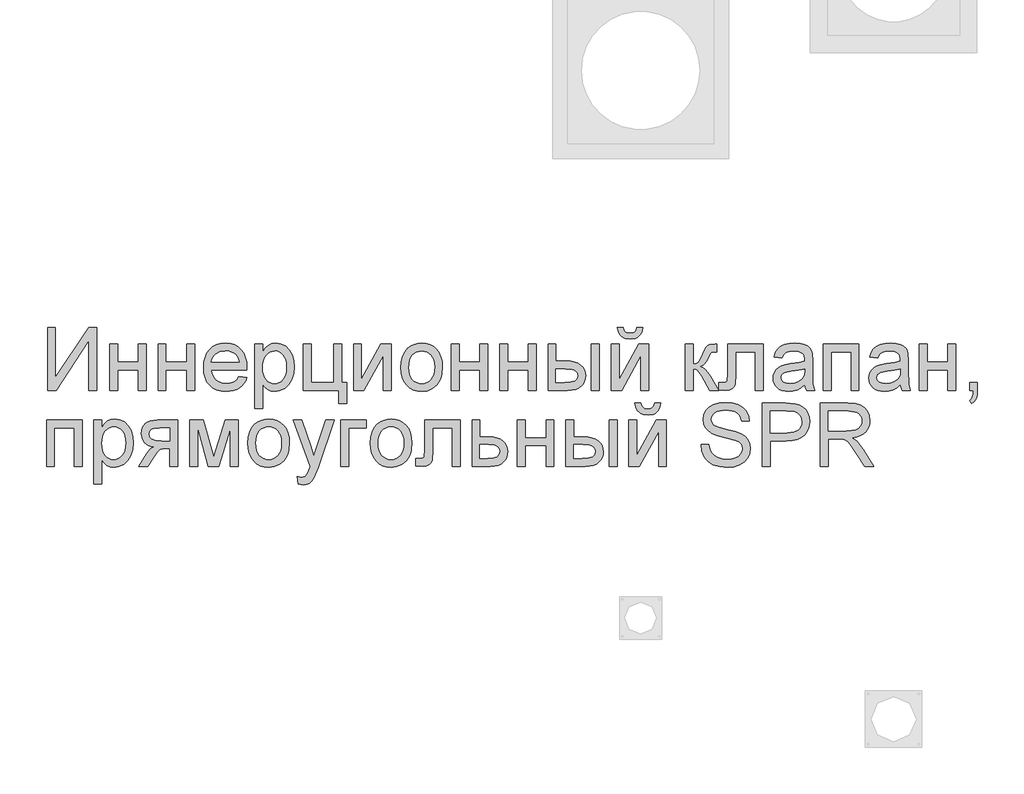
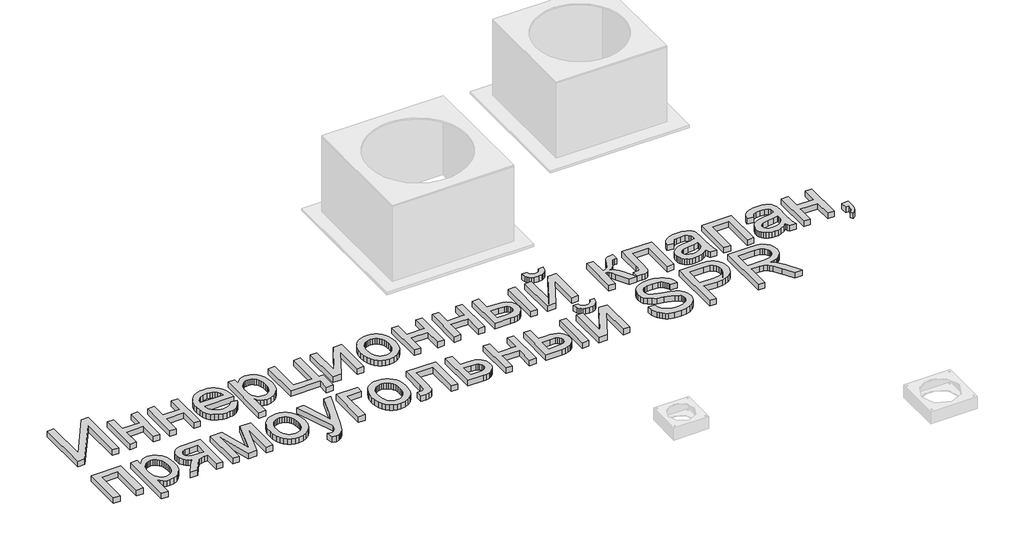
# One storey, part 26 of 31: 1 proxy.
"""IFC4 building model written with IfcOpenShell, lengths in millimetres."""

from ifc_helpers import new_model, si_unit, origin, origin_with_axes, place, context, project, spatial, polyline, outline, extrude, element, save

model = new_model("IFC4")

# Units and contexts
model_context = context("Model", 3, world=origin())
ifc_project = project(units=[si_unit("LENGTHUNIT", "METRE", prefix="MILLI")], contexts=[model_context])

# Site, building, storey
site = spatial("IfcSite", under=ifc_project)
building = spatial("IfcBuilding", under=site)
storey = spatial("IfcBuildingStorey", under=building, Name="Этаж 01", Elevation=0.0)

# Proxy
placement = place(None, origin())
element("IfcBuildingElementProxy", 1, Name="450 мм Arial", ObjectType="450 мм Arial", at=placement, inside=storey, context=model_context, shape_type="SweptSolid", body=[
    extrude(outline(polyline([(77243.6333717, -24328.5830609), (77299.8403896, -24328.5830609), (77299.8403896, -24684.7072131), (77535.2072768, -24328.5830609), (77594.9272333, -24328.5830609), (77594.9272333, -24778.2392037), (77538.7202154, -24778.2392037), (77538.7202154, -24423.1030656), (77303.9022248, -24778.2392037), (77243.6333717, -24778.2392037), (77243.6333717, -24328.5830609)])), origin_with_axes(), (0.0, 0.0, 1.0), 50.0),
    extrude(outline(polyline([(77686.2636373, -24448.0229739), (77742.4706551, -24448.0229739), (77742.4706551, -24574.488764), (77890.014077, -24574.488764), (77890.014077, -24448.0229739), (77946.2210949, -24448.0229739), (77946.2210949, -24778.2392037), (77890.014077, -24778.2392037), (77890.014077, -24630.6957819), (77742.4706551, -24630.6957819), (77742.4706551, -24778.2392037), (77686.2636373, -24778.2392037), (77686.2636373, -24448.0229739)])), origin_with_axes(), (0.0, 0.0, 1.0), 50.0),
    extrude(outline(polyline([(78030.5316216, -24448.0229739), (78086.7386395, -24448.0229739), (78086.7386395, -24574.488764), (78234.2820613, -24574.488764), (78234.2820613, -24448.0229739), (78290.4890792, -24448.0229739), (78290.4890792, -24778.2392037), (78234.2820613, -24778.2392037), (78234.2820613, -24630.6957819), (78086.7386395, -24630.6957819), (78086.7386395, -24778.2392037), (78030.5316216, -24778.2392037), (78030.5316216, -24448.0229739)])), origin_with_axes(), (0.0, 0.0, 1.0), 50.0),
    extrude(outline(polyline([(78605.9948786, -24679.8769225), (78661.1041032, -24686.9027997), (78652.6545252, -24708.9753066), (78641.2477665, -24728.426832), (78626.8838271, -24745.2573758), (78609.5627069, -24759.466938), (78589.4627974, -24770.7536256), (78566.7624899, -24778.8155452), (78541.4617846, -24783.652697), (78513.5606813, -24785.265081), (78478.6851598, -24782.482861), (78447.6107478, -24774.1362012), (78420.337445, -24760.2251015), (78396.8652517, -24740.7495619), (78377.9900678, -24716.251618), (78364.5077936, -24687.273305), (78356.4184291, -24653.814623), (78353.7219743, -24615.8755721), (78356.445874, -24576.6500446), (78364.617573, -24542.0764163), (78378.2370713, -24512.1546872), (78397.304369, -24486.8848573), (78420.7148115, -24466.808962), (78447.3637443, -24452.4690368), (78477.2511673, -24443.8650817), (78510.3770807, -24440.9970966), (78542.4360762, -24443.8582205), (78571.4281115, -24452.441592), (78597.3531869, -24466.7472111), (78620.2113021, -24486.775078), (78638.8703579, -24511.9900182), (78652.1982549, -24541.8568577), (78660.1949931, -24576.3755963), (78662.8605725, -24615.5462341), (78662.5312345, -24630.6957819), (78409.9289921, -24630.6957819), (78413.1846354, -24653.1250716), (78419.6581854, -24672.7687108), (78429.349642, -24689.6266994), (78442.2590053, -24703.6990375), (78457.6727096, -24714.7936112), (78474.8771893, -24722.7183067), (78493.8724443, -24727.473124), (78514.6584746, -24729.0580631), (78544.5733425, -24726.121466), (78569.7676992, -24717.3116746), (78590.2415445, -24702.0797923), (78605.9948786, -24679.8769225)]), holes=[polyline([(78409.9289921, -24574.488764), (78606.6535546, -24574.488764), (78599.0513359, -24544.7934548), (78584.1487916, -24523.5511541), (78568.8208524, -24512.0243243), (78551.3796611, -24503.7908744), (78531.8252176, -24498.8508045), (78510.157522, -24497.2041145), (78472.2699301, -24502.4598), (78440.9416534, -24518.2268565), (78428.4851298, -24529.626754), (78419.1641784, -24542.8037044), (78412.9787992, -24557.7577077), (78409.9289921, -24574.488764)])]), origin_with_axes(), (0.0, 0.0, 1.0), 50.0),
    extrude(outline(polyline([(78719.0675903, -24904.7049939), (78719.0675903, -24448.0229739), (78775.2746082, -24448.0229739), (78775.2746082, -24503.1321984), (78793.6077566, -24475.9480914), (78814.1364916, -24456.5308721), (78838.0683859, -24444.8805405), (78866.6110122, -24440.9970966), (78904.6221058, -24446.4311735), (78937.8577985, -24462.7334043), (78964.9184038, -24488.9157749), (78984.4042351, -24523.9902714), (78996.1780685, -24565.4045243), (79000.1026796, -24610.6061642), (78995.6703391, -24658.6757891), (78982.3733175, -24701.6681198), (78960.6370098, -24737.4012923), (78930.8868109, -24763.6934423), (78896.2377093, -24779.8721713), (78859.8046936, -24785.265081), (78833.9653834, -24781.6560854), (78810.8980013, -24770.8290988), (78791.151444, -24754.4857008), (78775.2746082, -24734.327471), (78775.2746082, -24904.7049939), (78719.0675903, -24904.7049939)]), holes=[polyline([(78775.2746082, -24615.7657928), (78776.7943658, -24642.8538429), (78781.3536387, -24666.154506), (78788.9524268, -24685.6677822), (78799.5907302, -24701.3936715), (78812.3971753, -24713.4968428), (78826.5003888, -24722.1419652), (78841.9003707, -24727.3290386), (78858.597121, -24729.0580631), (78875.5340135, -24727.2672878), (78891.2153049, -24721.8949617), (78905.6409952, -24712.941085), (78918.8110844, -24700.4056575), (78929.785587, -24684.110288), (78937.6245174, -24663.8765849), (78942.3278756, -24639.7045483), (78943.8956617, -24611.5941782), (78942.3656123, -24584.7394091), (78937.775464, -24561.4799132), (78930.1252168, -24541.8156904), (78919.4148708, -24525.7467407), (78906.5775501, -24513.2593417), (78892.5463793, -24504.339771), (78877.3213582, -24498.9880286), (78860.9024869, -24497.2041145), (78844.5350747, -24499.1012386), (78829.1350928, -24504.7926108), (78814.7025413, -24514.2782312), (78801.2374201, -24527.5580997), (78789.8786899, -24544.453825), (78781.7653112, -24564.7870156), (78776.8972839, -24588.5576715), (78775.2746082, -24615.7657928)])]), origin_with_axes(), (0.0, 0.0, 1.0), 50.0),
    extrude(outline(polyline([(79063.3355747, -24448.0229739), (79119.5425925, -24448.0229739), (79119.5425925, -24722.0321859), (79281.1377688, -24722.0321859), (79281.1377688, -24448.0229739), (79337.3447867, -24448.0229739), (79337.3447867, -24722.0321859), (79372.4741729, -24722.0321859), (79372.4741729, -24869.5756077), (79316.267155, -24869.5756077), (79316.267155, -24778.2392037), (79063.3355747, -24778.2392037), (79063.3355747, -24448.0229739)])), origin_with_axes(), (0.0, 0.0, 1.0), 50.0),
    extrude(outline(polyline([(79421.6553135, -24448.0229739), (79477.8623313, -24448.0229739), (79477.8623313, -24699.8567609), (79615.9647307, -24448.0229739), (79688.6386483, -24448.0229739), (79688.6386483, -24778.2392037), (79632.4316304, -24778.2392037), (79632.4316304, -24527.9423274), (79495.2074657, -24778.2392037), (79421.6553135, -24778.2392037), (79421.6553135, -24448.0229739)])), origin_with_axes(), (0.0, 0.0, 1.0), 50.0),
    extrude(outline(polyline([(79758.8974206, -24613.1310888), (79761.9369358, -24570.3651779), (79771.0554816, -24533.5136285), (79786.2530578, -24502.5764405), (79807.5296645, -24477.5536141), (79828.9503567, -24461.5601377), (79852.5940802, -24450.136226), (79878.4608353, -24443.281879), (79906.5506218, -24440.9970966), (79937.5598524, -24443.7793166), (79965.5981798, -24452.1259764), (79990.6656041, -24466.0370761), (80012.7621252, -24485.5126156), (80030.7968111, -24509.8939191), (80043.6787295, -24538.5223105), (80051.4078806, -24571.3977897), (80053.9842643, -24608.5203569), (80049.428422, -24665.3037162), (80043.7336192, -24688.6112406), (80035.7608952, -24708.5293281), (80013.379634, -24740.9005085), (79982.6825883, -24765.1205736), (79946.2221278, -24780.2289541), (79906.5506218, -24785.265081), (79875.0885514, -24782.4931528), (79846.7894981, -24774.1773685), (79821.6534617, -24760.3177278), (79799.6804423, -24740.9142309), (79781.8378703, -24716.2962158), (79769.093176, -24686.7930204), (79761.4463594, -24652.4046447), (79758.8974206, -24613.1310888)]), holes=[polyline([(79815.1044384, -24613.0213095), (79816.7305448, -24640.2843204), (79821.6088638, -24663.8903073), (79829.7393956, -24683.8392703), (79841.1221401, -24700.1312092), (79854.9680583, -24712.7867078), (79870.4881113, -24721.8263496), (79887.6822991, -24727.2501347), (79906.5506218, -24729.0580631), (79925.3228875, -24727.2398429), (79942.4484633, -24721.7851824), (79957.927349, -24712.6940815), (79971.7595448, -24699.9665402), (79983.1422893, -24683.5133629), (79991.2728211, -24663.2453537), (79996.1511401, -24639.1625128), (79997.7772465, -24611.2648402), (79996.1408483, -24584.8663415), (79991.2316538, -24561.8778633), (79983.049663, -24542.2994056), (79971.5948758, -24526.1309684), (79957.711221, -24513.4754698), (79942.242627, -24504.435828), (79925.1890939, -24499.0120428), (79906.5506218, -24497.2041145), (79887.6822991, -24499.0051816), (79870.4881113, -24504.4083831), (79854.9680583, -24513.4137189), (79841.1221401, -24526.0211891), (79829.7393956, -24542.2650996), (79821.6088638, -24562.1797565), (79816.7305448, -24585.7651598), (79815.1044384, -24613.0213095)])]), origin_with_axes(), (0.0, 0.0, 1.0), 50.0),
    extrude(outline(polyline([(80117.2171594, -24448.0229739), (80173.4241772, -24448.0229739), (80173.4241772, -24574.488764), (80320.9675991, -24574.488764), (80320.9675991, -24448.0229739), (80377.174617, -24448.0229739), (80377.174617, -24778.2392037), (80320.9675991, -24778.2392037), (80320.9675991, -24630.6957819), (80173.4241772, -24630.6957819), (80173.4241772, -24778.2392037), (80117.2171594, -24778.2392037), (80117.2171594, -24448.0229739)])), origin_with_axes(), (0.0, 0.0, 1.0), 50.0),
    extrude(outline(polyline([(80461.4851437, -24448.0229739), (80517.6921616, -24448.0229739), (80517.6921616, -24574.488764), (80665.2355835, -24574.488764), (80665.2355835, -24448.0229739), (80721.4426013, -24448.0229739), (80721.4426013, -24778.2392037), (80665.2355835, -24778.2392037), (80665.2355835, -24630.6957819), (80517.6921616, -24630.6957819), (80517.6921616, -24778.2392037), (80461.4851437, -24778.2392037), (80461.4851437, -24448.0229739)])), origin_with_axes(), (0.0, 0.0, 1.0), 50.0),
    extrude(outline(polyline([(80805.7531281, -24448.0229739), (80861.9601459, -24448.0229739), (80861.9601459, -24567.4628868), (80931.4504629, -24567.4628868), (80963.4271239, -24569.2227867), (80991.5134798, -24574.5024864), (81015.7095306, -24583.301986), (81036.0152764, -24595.6212854), (81052.0807955, -24611.0349897), (81063.5561663, -24629.117704), (81070.4413887, -24649.8694283), (81072.7364629, -24673.2901626), (81070.811894, -24694.1859723), (81065.0381872, -24713.5105653), (81055.4153427, -24731.2639416), (81041.9433603, -24747.4461012), (81024.2448737, -24760.9180836), (81001.9425163, -24770.5409281), (80975.0362882, -24776.3146348), (80943.5261894, -24778.2392037), (80805.7531281, -24778.2392037), (80805.7531281, -24448.0229739)]), holes=[polyline([(80861.9601459, -24722.0321859), (80919.7040744, -24722.0321859), (80964.466597, -24719.0818663), (80994.2442407, -24710.2309077), (81010.9581439, -24695.1225272), (81016.529445, -24673.3999419), (81012.3989977, -24655.0393487), (81000.0076556, -24638.8194524), (80989.2527117, -24632.1915253), (80973.5096694, -24627.4572916), (80927.0592897, -24623.6699046), (80861.9601459, -24623.6699046), (80861.9601459, -24722.0321859)])]), origin_with_axes(), (0.0, 0.0, 1.0), 50.0),
    extrude(outline(polyline([(81114.8917263, -24448.0229739), (81171.0987441, -24448.0229739), (81171.0987441, -24778.2392037), (81114.8917263, -24778.2392037), (81114.8917263, -24448.0229739)])), origin_with_axes(), (0.0, 0.0, 1.0), 50.0),
    extrude(outline(polyline([(81438.0820789, -24328.5830609), (81480.2373423, -24328.5830609), (81471.166825, -24364.5769593), (81463.2043929, -24379.0232333), (81452.9571784, -24391.1023903), (81440.6310178, -24400.6360392), (81426.4317473, -24407.4457884), (81392.4138769, -24412.8935877), (81355.5005766, -24407.4869556), (81340.1520538, -24400.7286655), (81326.8756159, -24391.2670593), (81315.8633766, -24379.2393613), (81307.30745, -24364.7827956), (81297.5645343, -24328.5830609), (81339.7197977, -24328.5830609), (81345.6478816, -24347.0946007), (81355.5280215, -24360.2543981), (81369.4151069, -24368.1173428), (81387.3640277, -24370.7383243), (81407.6183144, -24368.1996773), (81422.2738551, -24360.5837361), (81432.153995, -24347.5062732), (81438.0820789, -24328.5830609)])), origin_with_axes(), (0.0, 0.0, 1.0), 50.0),
    extrude(outline(polyline([(81255.4092709, -24448.0229739), (81311.6162888, -24448.0229739), (81311.6162888, -24699.8567609), (81449.7186881, -24448.0229739), (81522.3926057, -24448.0229739), (81522.3926057, -24778.2392037), (81466.1855878, -24778.2392037), (81466.1855878, -24527.9423274), (81328.9614232, -24778.2392037), (81255.4092709, -24778.2392037), (81255.4092709, -24448.0229739)])), origin_with_axes(), (0.0, 0.0, 1.0), 50.0),
    extrude(outline(polyline([(82084.4627842, -24448.0229739), (82337.3943646, -24448.0229739), (82337.3943646, -24777.9098657), (82281.1873467, -24777.9098657), (82281.1873467, -24504.2299917), (82140.6698021, -24504.2299917), (82140.6698021, -24661.7633328), (82136.8824151, -24734.4372504), (82129.7879258, -24750.8904277), (82116.0792318, -24765.1205736), (82095.2760484, -24774.9595462), (82066.8980911, -24778.2392037), (82021.2298891, -24775.3849411), (82021.2298891, -24722.0321859), (82046.3693561, -24722.0321859), (82071.7832714, -24718.5741369), (82078.1367502, -24714.1006292), (82081.9378596, -24707.5962038), (82084.4627842, -24658.5797321), (82084.4627842, -24448.0229739)])), origin_with_axes(), (0.0, 0.0, 1.0), 50.0),
    extrude(outline(polyline([(81782.3500633, -24448.0229739), (81838.5570811, -24448.0229739), (81838.5570811, -24588.5405185), (81861.418627, -24586.0155939), (81876.2113919, -24578.44082), (81889.3025772, -24558.6805403), (81907.0593841, -24519.5990982), (81921.3718645, -24487.6395902), (81932.6928581, -24468.8261572), (81943.2591188, -24458.5755121), (81955.3074004, -24452.3043678), (81996.4197602, -24448.0229739), (82007.1781347, -24448.0229739), (82007.1781347, -24504.5593297), (81992.0285869, -24504.2299917), (81974.4638938, -24505.7120127), (81964.583754, -24510.1580756), (81945.2625916, -24547.1537104), (81933.3927013, -24571.8128928), (81922.5931596, -24587.1682768), (81909.5156967, -24597.4189219), (81890.812043, -24606.7638876), (81908.6237396, -24614.6748607), (81926.2707672, -24628.6374194), (81943.7531258, -24648.6515638), (81961.0708153, -24674.7172939), (82021.2298891, -24778.2392037), (81957.3383181, -24778.2392037), (81898.3868169, -24676.9128805), (81882.4688138, -24649.9483322), (81868.7463973, -24634.0440515), (81854.8867567, -24626.2634414), (81838.5570811, -24623.6699046), (81838.5570811, -24778.2392037), (81782.3500633, -24778.2392037), (81782.3500633, -24448.0229739)])), origin_with_axes(), (0.0, 0.0, 1.0), 50.0),
    extrude(outline(polyline([(82632.4812083, -24736.0839404), (82605.6264393, -24759.1101552), (82577.9757701, -24774.1773685), (82548.8979696, -24782.4931528), (82517.7618066, -24785.265081), (82492.7355496, -24783.5978074), (82470.789975, -24778.5959866), (82451.925083, -24770.2596186), (82436.1408735, -24758.5887034), (82423.6774887, -24744.3242514), (82414.775071, -24728.2072733), (82409.4336204, -24710.2377689), (82407.6531369, -24690.4157383), (82410.3427305, -24667.1150752), (82418.4115114, -24645.955109), (82430.8577431, -24627.8415193), (82446.6796893, -24613.6799855), (82465.2735636, -24602.9765006), (82486.0355797, -24595.2370577), (82534.6678237, -24586.7840492), (82592.1373039, -24577.8919233), (82632.1518703, -24567.4628868), (82632.4812083, -24554.948043), (82628.6114868, -24529.8634657), (82617.0023225, -24513.4514556), (82591.0395105, -24501.2659498), (82554.8672207, -24497.2041145), (82521.3845246, -24499.9074305), (82498.0015269, -24508.0173787), (82482.056079, -24523.0159799), (82470.886032, -24546.3852551), (82414.6790141, -24539.3593779), (82424.4356522, -24508.621165), (82438.9951361, -24484.469712), (82459.7159849, -24465.9993394), (82487.956718, -24452.3043678), (82522.4960403, -24443.8239144), (82562.1126566, -24440.9970966), (82600.1100278, -24443.4945764), (82630.230732, -24450.9870158), (82652.9413312, -24462.2531197), (82668.7083878, -24476.0715931), (82679.1648691, -24493.1560016), (82685.9437428, -24514.2199109), (82688.6882261, -24563.4010515), (82688.6882261, -24633.3304858), (82691.5424888, -24730.9792014), (82702.7399806, -24778.2392037), (82646.5329627, -24778.2392037), (82637.5310575, -24758.6984827), (82632.4812083, -24736.0839404)]), holes=[polyline([(82632.4812083, -24623.6699046), (82594.7171182, -24633.0285927), (82541.8034803, -24640.9052597), (82493.4456846, -24650.0169443), (82480.8622287, -24656.2469213), (82471.5447079, -24664.837154), (82465.781293, -24675.1289664), (82463.8601547, -24686.4636824), (82468.0454917, -24703.1775857), (82480.6015028, -24716.8725573), (82501.2537396, -24726.0116867), (82529.7277538, -24729.0580631), (82559.91707, -24725.6960711), (82586.5934476, -24715.610095), (82608.219976, -24700.7487179), (82623.2597444, -24683.0605231), (82629.9288388, -24664.837154), (82632.1518703, -24639.5879077), (82632.4812083, -24623.6699046)])]), origin_with_axes(), (0.0, 0.0, 1.0), 50.0),
    extrude(outline(polyline([(82765.9728757, -24448.0229739), (83018.904456, -24448.0229739), (83018.904456, -24778.2392037), (82962.6974382, -24778.2392037), (82962.6974382, -24504.2299917), (82822.1798935, -24504.2299917), (82822.1798935, -24778.2392037), (82765.9728757, -24778.2392037), (82765.9728757, -24448.0229739)])), origin_with_axes(), (0.0, 0.0, 1.0), 50.0),
    extrude(outline(polyline([(83313.9912997, -24736.0839404), (83287.1365307, -24759.1101552), (83259.4858615, -24774.1773685), (83230.408061, -24782.4931528), (83199.2718981, -24785.265081), (83174.245641, -24783.5978074), (83152.3000665, -24778.5959866), (83133.4351745, -24770.2596186), (83117.6509649, -24758.5887034), (83105.1875802, -24744.3242514), (83096.2851625, -24728.2072733), (83090.9437119, -24710.2377689), (83089.1632283, -24690.4157383), (83091.852822, -24667.1150752), (83099.9216028, -24645.955109), (83112.3678346, -24627.8415193), (83128.1897808, -24613.6799855), (83146.7836551, -24602.9765006), (83167.5456712, -24595.2370577), (83216.1779152, -24586.7840492), (83273.6473953, -24577.8919233), (83313.6619617, -24567.4628868), (83313.9912997, -24554.948043), (83310.1215783, -24529.8634657), (83298.512414, -24513.4514556), (83272.549602, -24501.2659498), (83236.3773122, -24497.2041145), (83202.894616, -24499.9074305), (83179.5116184, -24508.0173787), (83163.5661704, -24523.0159799), (83152.3961234, -24546.3852551), (83096.1891056, -24539.3593779), (83105.9457437, -24508.621165), (83120.5052275, -24484.469712), (83141.2260764, -24465.9993394), (83169.4668095, -24452.3043678), (83204.0061317, -24443.8239144), (83243.6227481, -24440.9970966), (83281.6201193, -24443.4945764), (83311.7408234, -24450.9870158), (83334.4514227, -24462.2531197), (83350.2184792, -24476.0715931), (83360.6749606, -24493.1560016), (83367.4538343, -24514.2199109), (83370.1983176, -24563.4010515), (83370.1983176, -24633.3304858), (83373.0525802, -24730.9792014), (83384.2500721, -24778.2392037), (83328.0430542, -24778.2392037), (83319.041149, -24758.6984827), (83313.9912997, -24736.0839404)]), holes=[polyline([(83313.9912997, -24623.6699046), (83276.2272096, -24633.0285927), (83223.3135717, -24640.9052597), (83174.9557761, -24650.0169443), (83162.3723202, -24656.2469213), (83153.0547994, -24664.837154), (83147.2913845, -24675.1289664), (83145.3702462, -24686.4636824), (83149.5555832, -24703.1775857), (83162.1115943, -24716.8725573), (83182.7638311, -24726.0116867), (83211.2378452, -24729.0580631), (83241.4271615, -24725.6960711), (83268.1035391, -24715.610095), (83289.7300674, -24700.7487179), (83304.7698359, -24683.0605231), (83311.4389303, -24664.837154), (83313.6619617, -24639.5879077), (83313.9912997, -24623.6699046)])]), origin_with_axes(), (0.0, 0.0, 1.0), 50.0),
    extrude(outline(polyline([(83447.4829671, -24448.0229739), (83503.689985, -24448.0229739), (83503.689985, -24574.488764), (83651.2334068, -24574.488764), (83651.2334068, -24448.0229739), (83707.4404247, -24448.0229739), (83707.4404247, -24778.2392037), (83651.2334068, -24778.2392037), (83651.2334068, -24630.6957819), (83503.689985, -24630.6957819), (83503.689985, -24778.2392037), (83447.4829671, -24778.2392037), (83447.4829671, -24448.0229739)])), origin_with_axes(), (0.0, 0.0, 1.0), 50.0),
    extrude(outline(polyline([(83805.8027059, -24778.2392037), (83805.8027059, -24722.0321859), (83862.0097238, -24722.0321859), (83862.0097238, -24778.2392037), (83859.4847992, -24810.3908255), (83851.9100253, -24835.7086839), (83838.8462848, -24855.1259032), (83819.8544604, -24869.5756077), (83805.8027059, -24848.4979761), (83817.9882118, -24838.315943), (83826.4412203, -24824.2367437), (83831.5734041, -24804.7234675), (83833.7964355, -24778.2392037), (83805.8027059, -24778.2392037)])), origin_with_axes(), (0.0, 0.0, 1.0), 50.0),
    extrude(outline(polyline([(77236.6074945, -24988.455057), (77489.5390748, -24988.455057), (77489.5390748, -25318.6712869), (77433.332057, -25318.6712869), (77433.332057, -25044.6620749), (77292.8145123, -25044.6620749), (77292.8145123, -25318.6712869), (77236.6074945, -25318.6712869), (77236.6074945, -24988.455057)])), origin_with_axes(), (0.0, 0.0, 1.0), 50.0),
    extrude(outline(polyline([(77573.8496016, -25445.1370771), (77573.8496016, -24988.455057), (77630.0566194, -24988.455057), (77630.0566194, -25043.5642816), (77648.3897678, -25016.3801745), (77668.9185029, -24996.9629552), (77692.8503972, -24985.3126237), (77721.3930234, -24981.4291798), (77759.4041171, -24986.8632567), (77792.6398097, -25003.1654875), (77819.700415, -25029.3478581), (77839.1862464, -25064.4223546), (77850.9600797, -25105.8366075), (77854.8846908, -25151.0382473), (77850.4523503, -25199.1078722), (77837.1553288, -25242.100203), (77815.4190211, -25277.8333755), (77785.6688222, -25304.1255255), (77751.0197206, -25320.3042545), (77714.5867049, -25325.6971641), (77688.7473947, -25322.0881686), (77665.6800126, -25311.261182), (77645.9334553, -25294.917784), (77630.0566194, -25274.7595542), (77630.0566194, -25445.1370771), (77573.8496016, -25445.1370771)]), holes=[polyline([(77630.0566194, -25156.1978759), (77631.5763771, -25183.285926), (77636.1356499, -25206.5865892), (77643.734438, -25226.0998654), (77654.3727414, -25241.8257547), (77667.1791866, -25253.928926), (77681.2824001, -25262.5740484), (77696.682382, -25267.7611218), (77713.3791322, -25269.4901463), (77730.3160248, -25267.6993709), (77745.9973162, -25262.3270449), (77760.4230065, -25253.3731682), (77773.5930957, -25240.8377407), (77784.5675983, -25224.5423712), (77792.4065287, -25204.3086681), (77797.1098869, -25180.1366315), (77798.677673, -25152.0262613), (77797.1476236, -25125.1714923), (77792.5574752, -25101.9119964), (77784.9072281, -25082.2477736), (77774.196882, -25066.1788239), (77761.3595614, -25053.6914249), (77747.3283906, -25044.7718542), (77732.1033695, -25039.4201118), (77715.6844982, -25037.6361977), (77699.317086, -25039.5333217), (77683.9171041, -25045.224694), (77669.4845526, -25054.7103143), (77656.0194314, -25067.9901829), (77644.6607012, -25084.8859082), (77636.5473224, -25105.2190988), (77631.6792952, -25128.9897547), (77630.0566194, -25156.1978759)])]), origin_with_axes(), (0.0, 0.0, 1.0), 50.0),
    extrude(outline(polyline([(78171.0491663, -24988.455057), (78171.0491663, -25318.6712869), (78114.8421484, -25318.6712869), (78114.8421484, -25192.2054968), (78084.2137149, -25192.2054968), (78059.7878135, -25193.9894109), (78042.4975688, -25199.3411533), (78025.8385552, -25214.9023736), (78003.3063474, -25247.3147213), (77958.51638, -25318.6712869), (77893.5270156, -25318.6712869), (77949.9535921, -25228.4326762), (77974.8735004, -25196.0477734), (77986.5924441, -25186.6067508), (77997.8173808, -25181.6666809), (77977.1788664, -25177.1039774), (77959.3946147, -25169.8928476), (77944.4646255, -25160.0332913), (77932.3888991, -25147.5253087), (77916.4160063, -25117.7751098), (77911.0917087, -25083.8532963), (77912.9099289, -25063.612732), (77918.3645894, -25045.3756405), (77927.4556903, -25029.1420219), (77940.1832316, -25014.911876), (77956.3550994, -25003.3370177), (77975.7791799, -24995.0692618), (77998.4554731, -24990.1086082), (78024.3839791, -24988.455057), (78171.0491663, -24988.455057)]), holes=[polyline([(78114.8421484, -25044.6620749), (78040.7410995, -25044.6620749), (78002.46928, -25047.9142876), (77989.539333, -25051.9795535), (77980.7466947, -25057.6709257), (77970.6607186, -25071.7912922), (77967.2987265, -25088.1346903), (77972.2525189, -25109.5553824), (77987.1138959, -25124.4167594), (78014.5724513, -25133.103049), (78057.3177786, -25135.9984789), (78114.8421484, -25135.9984789), (78114.8421484, -25044.6620749)])]), origin_with_axes(), (0.0, 0.0, 1.0), 50.0),
    extrude(outline(polyline([(78255.359693, -24988.455057), (78352.0752843, -24988.455057), (78426.6154506, -25252.8036879), (78506.9739214, -24988.455057), (78599.6276774, -24988.455057), (78599.6276774, -25318.6712869), (78543.4206595, -25318.6712869), (78543.4206595, -25052.7857454), (78462.6230714, -25318.6712869), (78388.8513604, -25318.6712869), (78311.5667109, -25040.051343), (78311.5667109, -25318.6712869), (78255.359693, -25318.6712869), (78255.359693, -24988.455057)])), origin_with_axes(), (0.0, 0.0, 1.0), 50.0),
    extrude(outline(polyline([(78669.8864497, -25153.563172), (78672.9259649, -25110.7972611), (78682.0445107, -25073.9457116), (78697.2420869, -25043.0085237), (78718.5186937, -25017.9856973), (78739.9393858, -25001.9922209), (78763.5831093, -24990.5683092), (78789.4498644, -24983.7139621), (78817.5396509, -24981.4291798), (78848.5488815, -24984.2113997), (78876.587209, -24992.5580596), (78901.6546332, -25006.4691593), (78923.7511544, -25025.9446988), (78941.7858402, -25050.3260023), (78954.6677587, -25078.9543936), (78962.3969097, -25111.8298729), (78964.9732934, -25148.95244), (78960.4174512, -25205.7357994), (78954.7226483, -25229.0433238), (78946.7499244, -25248.9614113), (78924.3686631, -25281.3325917), (78893.6716175, -25305.5526568), (78857.2111569, -25320.6610373), (78817.5396509, -25325.6971641), (78786.0775805, -25322.925236), (78757.7785272, -25314.6094516), (78732.6424908, -25300.749811), (78710.6694714, -25281.3463141), (78692.8268994, -25256.728299), (78680.0822051, -25227.2251036), (78672.4353886, -25192.8367279), (78669.8864497, -25153.563172)]), holes=[polyline([(78726.0934676, -25153.4533926), (78727.7195739, -25180.7164036), (78732.597893, -25204.3223905), (78740.7284247, -25224.2713534), (78752.1111692, -25240.5632924), (78765.9570874, -25253.218791), (78781.4771404, -25262.2584328), (78798.6713283, -25267.6822179), (78817.5396509, -25269.4901463), (78836.3119166, -25267.6719261), (78853.4374924, -25262.2172656), (78868.9163782, -25253.1261647), (78882.7485739, -25240.3986234), (78894.1313184, -25223.945446), (78902.2618502, -25203.6774369), (78907.1401692, -25179.594596), (78908.7662756, -25151.6969233), (78907.1298774, -25125.2984247), (78902.2206829, -25102.3099465), (78894.0386921, -25082.7314888), (78882.583905, -25066.5630516), (78868.7002501, -25053.907553), (78853.2316561, -25044.8679111), (78836.1781231, -25039.444126), (78817.5396509, -25037.6361977), (78798.6713283, -25039.4372648), (78781.4771404, -25044.8404663), (78765.9570874, -25053.8458021), (78752.1111692, -25066.4532722), (78740.7284247, -25082.6971827), (78732.597893, -25102.6118396), (78727.7195739, -25126.1972429), (78726.0934676, -25153.4533926)])]), origin_with_axes(), (0.0, 0.0, 1.0), 50.0),
    extrude(outline(polyline([(79028.2061885, -25445.1370771), (79021.1803113, -25391.0158665), (79049.7229375, -25395.9559365), (79064.7352611, -25394.4053034), (79076.3993151, -25389.7534042), (79092.7564356, -25372.4631595), (79108.125542, -25331.0763514), (79112.5167153, -25317.4637143), (78993.0768024, -24988.455057), (79052.3576415, -24988.455057), (79115.7003159, -25171.786541), (79137.7659616, -25245.1191347), (79159.8316073, -25180.3493289), (79224.930751, -24988.455057), (79283.7724728, -24988.455057), (79168.8335125, -25326.5753988), (79138.9735342, -25399.9079924), (79123.6867623, -25423.3184349), (79106.3690727, -25439.5383312), (79086.2520102, -25449.0067985), (79062.5671193, -25452.1629543), (79028.2061885, -25445.1370771)])), origin_with_axes(), (0.0, 0.0, 1.0), 50.0),
    extrude(outline(polyline([(79330.3189095, -24988.455057), (79512.9917175, -24988.455057), (79512.9917175, -25044.6620749), (79386.5259273, -25044.6620749), (79386.5259273, -25318.6712869), (79330.3189095, -25318.6712869), (79330.3189095, -24988.455057)])), origin_with_axes(), (0.0, 0.0, 1.0), 50.0),
    extrude(outline(polyline([(79541.0952264, -25153.563172), (79544.1347417, -25110.7972611), (79553.2532874, -25073.9457116), (79568.4508636, -25043.0085237), (79589.7274704, -25017.9856973), (79611.1481625, -25001.9922209), (79634.7918861, -24990.5683092), (79660.6586411, -24983.7139621), (79688.7484276, -24981.4291798), (79719.7576582, -24984.2113997), (79747.7959857, -24992.5580596), (79772.8634099, -25006.4691593), (79794.9599311, -25025.9446988), (79812.9946169, -25050.3260023), (79825.8765354, -25078.9543936), (79833.6056864, -25111.8298729), (79836.1820701, -25148.95244), (79831.6262279, -25205.7357994), (79825.931425, -25229.0433238), (79817.9587011, -25248.9614113), (79795.5774398, -25281.3325917), (79764.8803942, -25305.5526568), (79728.4199336, -25320.6610373), (79688.7484276, -25325.6971641), (79657.2863572, -25322.925236), (79628.9873039, -25314.6094516), (79603.8512675, -25300.749811), (79581.8782482, -25281.3463141), (79564.0356761, -25256.728299), (79551.2909818, -25227.2251036), (79543.6441653, -25192.8367279), (79541.0952264, -25153.563172)]), holes=[polyline([(79597.3022443, -25153.4533926), (79598.9283506, -25180.7164036), (79603.8066697, -25204.3223905), (79611.9372014, -25224.2713534), (79623.3199459, -25240.5632924), (79637.1658641, -25253.218791), (79652.6859171, -25262.2584328), (79669.880105, -25267.6822179), (79688.7484276, -25269.4901463), (79707.5206933, -25267.6719261), (79724.6462691, -25262.2172656), (79740.1251549, -25253.1261647), (79753.9573507, -25240.3986234), (79765.3400951, -25223.945446), (79773.4706269, -25203.6774369), (79778.3489459, -25179.594596), (79779.9750523, -25151.6969233), (79778.3386541, -25125.2984247), (79773.4294596, -25102.3099465), (79765.2474688, -25082.7314888), (79753.7926817, -25066.5630516), (79739.9090268, -25053.907553), (79724.4404328, -25044.8679111), (79707.3868998, -25039.444126), (79688.7484276, -25037.6361977), (79669.880105, -25039.4372648), (79652.6859171, -25044.8404663), (79637.1658641, -25053.8458021), (79623.3199459, -25066.4532722), (79611.9372014, -25082.6971827), (79603.8066697, -25102.6118396), (79598.9283506, -25126.1972429), (79597.3022443, -25153.4533926)])]), origin_with_axes(), (0.0, 0.0, 1.0), 50.0),
    extrude(outline(polyline([(79927.5184741, -24988.455057), (80180.4500545, -24988.455057), (80180.4500545, -25318.3419489), (80124.2430366, -25318.3419489), (80124.2430366, -25044.6620749), (79983.725492, -25044.6620749), (79983.725492, -25202.1954159), (79979.9381051, -25274.8693336), (79972.8436157, -25291.3225109), (79959.1349217, -25305.5526568), (79938.3317383, -25315.3916294), (79909.9537811, -25318.6712869), (79864.2855791, -25315.8170243), (79864.2855791, -25262.4642691), (79889.425046, -25262.4642691), (79914.8389613, -25259.0062201), (79921.1924402, -25254.5327123), (79924.9935495, -25248.0282869), (79927.5184741, -25199.0118153), (79927.5184741, -24988.455057)])), origin_with_axes(), (0.0, 0.0, 1.0), 50.0),
    extrude(outline(polyline([(80264.7605813, -24988.455057), (80320.9675991, -24988.455057), (80320.9675991, -25107.89497), (80385.7374048, -25107.89497), (80415.6385503, -25109.6548699), (80441.889533, -25114.9345696), (80464.4903529, -25123.7340692), (80483.4410101, -25136.0533686), (80498.4258889, -25151.4670729), (80509.1293737, -25169.5497872), (80515.5514646, -25190.3015115), (80517.6921616, -25213.7222458), (80515.8705108, -25234.6180554), (80510.4055584, -25253.9426484), (80501.2973045, -25271.6960247), (80488.545749, -25287.8781844), (80471.7872479, -25301.3501667), (80450.6581571, -25310.9730113), (80425.1584767, -25316.746718), (80395.2882067, -25318.6712869), (80264.7605813, -25318.6712869), (80264.7605813, -24988.455057)]), holes=[polyline([(80320.9675991, -25262.4642691), (80373.4421197, -25262.4642691), (80414.1565293, -25259.5139495), (80441.230857, -25250.6629909), (80456.4215721, -25235.5546104), (80461.4851437, -25213.8320251), (80457.738924, -25195.4714319), (80446.500265, -25179.2515356), (80436.733335, -25172.6236085), (80422.4174241, -25167.8893748), (80380.1386589, -25164.1019878), (80320.9675991, -25164.1019878), (80320.9675991, -25262.4642691)])]), origin_with_axes(), (0.0, 0.0, 1.0), 50.0),
    extrude(outline(polyline([(80587.9509339, -24988.455057), (80644.1579518, -24988.455057), (80644.1579518, -25114.9208472), (80791.7013736, -25114.9208472), (80791.7013736, -24988.455057), (80847.9083915, -24988.455057), (80847.9083915, -25318.6712869), (80791.7013736, -25318.6712869), (80791.7013736, -25171.1278651), (80644.1579518, -25171.1278651), (80644.1579518, -25318.6712869), (80587.9509339, -25318.6712869), (80587.9509339, -24988.455057)])), origin_with_axes(), (0.0, 0.0, 1.0), 50.0),
    extrude(outline(polyline([(80932.2189183, -24988.455057), (80988.4259361, -24988.455057), (80988.4259361, -25107.89497), (81057.9162531, -25107.89497), (81089.8929141, -25109.6548699), (81117.97927, -25114.9345696), (81142.1753208, -25123.7340692), (81162.4810666, -25136.0533686), (81178.5465857, -25151.4670729), (81190.0219564, -25169.5497872), (81196.9071789, -25190.3015115), (81199.202253, -25213.7222458), (81197.2776841, -25234.6180554), (81191.5039774, -25253.9426484), (81181.8811329, -25271.6960247), (81168.4091505, -25287.8781844), (81150.7106639, -25301.3501667), (81128.4083065, -25310.9730113), (81101.5020784, -25316.746718), (81069.9919796, -25318.6712869), (80932.2189183, -25318.6712869), (80932.2189183, -24988.455057)]), holes=[polyline([(80988.4259361, -25262.4642691), (81046.1698646, -25262.4642691), (81090.9323871, -25259.5139495), (81120.7100309, -25250.6629909), (81137.4239341, -25235.5546104), (81142.9952352, -25213.8320251), (81138.8647878, -25195.4714319), (81126.4734458, -25179.2515356), (81115.7185019, -25172.6236085), (81099.9754596, -25167.8893748), (81053.5250798, -25164.1019878), (80988.4259361, -25164.1019878), (80988.4259361, -25262.4642691)])]), origin_with_axes(), (0.0, 0.0, 1.0), 50.0),
    extrude(outline(polyline([(81241.3575164, -24988.455057), (81297.5645343, -24988.455057), (81297.5645343, -25318.6712869), (81241.3575164, -25318.6712869), (81241.3575164, -24988.455057)])), origin_with_axes(), (0.0, 0.0, 1.0), 50.0),
    extrude(outline(polyline([(81381.8750611, -24988.455057), (81438.0820789, -24988.455057), (81438.0820789, -25240.2888441), (81576.1844783, -24988.455057), (81648.8583959, -24988.455057), (81648.8583959, -25318.6712869), (81592.651378, -25318.6712869), (81592.651378, -25068.3744105), (81455.4272133, -25318.6712869), (81381.8750611, -25318.6712869), (81381.8750611, -24988.455057)])), origin_with_axes(), (0.0, 0.0, 1.0), 50.0),
    extrude(outline(polyline([(81564.5478691, -24869.0151441), (81606.7031325, -24869.0151441), (81597.6326152, -24905.0090425), (81589.670183, -24919.4553164), (81579.4229685, -24931.5344735), (81567.0968079, -24941.0681224), (81552.8975375, -24947.8778715), (81518.8796671, -24953.3256709), (81481.9663668, -24947.9190388), (81466.617844, -24941.1607487), (81453.341406, -24931.6991425), (81442.3291668, -24919.6714445), (81433.7732401, -24905.2148787), (81424.0303245, -24869.0151441), (81466.1855878, -24869.0151441), (81472.1136718, -24887.5266839), (81481.9938116, -24900.6864813), (81495.8808971, -24908.5494259), (81513.8298178, -24911.1704075), (81534.0841045, -24908.6317604), (81548.7396453, -24901.0158193), (81558.6197852, -24887.9383564), (81564.5478691, -24869.0151441)])), origin_with_axes(), (0.0, 0.0, 1.0), 50.0),
    extrude(outline(polyline([(81894.764099, -25164.1019878), (81950.9711168, -25164.1019878), (81957.4206526, -25195.2930405), (81969.0847066, -25220.3638953), (81987.2806308, -25240.2613992), (82013.3257773, -25255.9323988), (82045.1617835, -25266.1007094), (82080.7302869, -25269.4901463), (82112.0448413, -25266.9240544), (82139.4622294, -25259.2257788), (82161.6788217, -25247.040273), (82177.3909885, -25231.0124905), (82186.7359542, -25212.61073), (82189.8509427, -25193.3032901), (82187.5181319, -25174.4898571), (82180.5196995, -25158.2287936), (82166.303276, -25144.3554305), (82142.316492, -25132.7050989), (82060.4760002, -25111.2432396), (82006.7527398, -25097.0405385), (81972.3780865, -25083.5239583), (81944.3980793, -25064.6144684), (81924.5691875, -25041.6980329), (81912.754187, -25015.2686588), (81908.8158534, -24985.8203531), (81913.6873113, -24952.900276), (81928.3016848, -24922.2032303), (81952.2747464, -24896.1855287), (81985.2222683, -24877.3034836), (82024.7702726, -24865.8178211), (82068.5447811, -24861.9892669), (82115.9694524, -24865.9962125), (82157.4660398, -24878.0170493), (82191.5525223, -24897.8047739), (82216.746879, -24925.1123826), (82232.6923269, -24958.238296), (82239.0320833, -24995.4809343), (82182.8250655, -24995.4809343), (82179.0651233, -24977.5457359), (82172.5058083, -24961.9433484), (82163.1471202, -24948.6737717), (82150.9890593, -24937.7370058), (82135.8052054, -24929.1879403), (82117.3691389, -24923.081465), (82070.7403678, -24918.1962847), (82023.0138033, -24923.0265753), (82004.7698506, -24929.0644386), (81990.2721176, -24937.5174471), (81971.3351829, -24958.8420823), (81966.6009492, -24971.0070045), (81965.0228713, -24984.1736631), (81969.4963791, -25005.7727466), (81982.9169024, -25023.1453259), (82014.6431292, -25038.6791013), (82074.6924237, -25054.5422147), (82136.6628565, -25069.609428), (82174.1524983, -25082.755503), (82206.1943407, -25103.1470139), (82228.5481571, -25128.3139257), (82241.6805097, -25157.9817901), (82246.0579605, -25191.8761588), (82241.0218337, -25226.5252603), (82225.9134532, -25259.1159994), (82201.3503277, -25287.1646187), (82167.949966, -25308.1873607), (82127.784453, -25321.3197133), (82082.9258736, -25325.6971641), (82027.8578163, -25320.9766529), (81982.5326747, -25306.8151191), (81963.3933343, -25296.1802463), (81946.428997, -25283.1576731), (81931.6396626, -25267.7473994), (81919.0253313, -25249.9494252), (81901.4331934, -25209.4957415), (81894.764099, -25164.1019878)])), origin_with_axes(), (0.0, 0.0, 1.0), 50.0),
    extrude(outline(polyline([(82330.3684873, -25318.6712869), (82330.3684873, -24869.0151441), (82497.0135129, -24869.0151441), (82564.1984639, -24873.296538), (82594.1544991, -24881.2967068), (82618.8136815, -24894.3192801), (82638.6700181, -24912.9543216), (82654.217516, -24937.7918954), (82664.2623248, -24967.0892546), (82667.6105944, -24999.1036522), (82665.3498263, -25026.7062929), (82658.567522, -25052.0996246), (82647.2636814, -25075.2836472), (82631.4383046, -25096.2583608), (82609.7122888, -25113.6446625), (82580.7065309, -25126.0634494), (82544.4210312, -25133.5147215), (82500.8557895, -25135.9984789), (82386.5755052, -25135.9984789), (82386.5755052, -25318.6712869), (82330.3684873, -25318.6712869)]), holes=[polyline([(82386.5755052, -25079.791461), (82504.1491695, -25079.791461), (82553.9889861, -25074.6318325), (82572.569138, -25068.1822967), (82586.9227856, -25059.1529467), (82597.6331317, -25047.7839246), (82605.2833788, -25034.3153729), (82609.8735271, -25018.7472914), (82611.4035766, -25001.0796802), (82607.7945811, -24975.8304339), (82596.9675945, -24954.5332435), (82580.2674136, -24938.5054611), (82559.0388353, -24929.0644386), (82502.8318175, -24925.222162), (82386.5755052, -24925.222162), (82386.5755052, -25079.791461)])]), origin_with_axes(), (0.0, 0.0, 1.0), 50.0),
    extrude(outline(polyline([(82744.895244, -25318.6712869), (82744.895244, -24869.0151441), (82938.6557645, -24869.0151441), (82990.732335, -24872.0477981), (83028.6199269, -24881.1457603), (83056.3117633, -24897.941998), (83077.8010675, -24924.069479), (83091.592096, -24956.4681043), (83096.1891056, -24992.077775), (83094.2851203, -25015.1726019), (83088.5731644, -25036.3737353), (83079.053238, -25055.6811753), (83065.725341, -25073.0949218), (83048.4179432, -25088.059217), (83026.9595145, -25100.0183029), (83001.3500547, -25108.9721797), (82971.589564, -25114.9208472), (83003.5353496, -25138.9625209), (83049.0937722, -25196.8162287), (83124.0730558, -25318.6712869), (83058.7543534, -25318.6712869), (83000.2419696, -25225.4686343), (82957.9769269, -25163.7726498), (82942.26476, -25145.7825618), (82928.2816177, -25134.6262373), (82901.5503504, -25123.9227524), (82868.9458889, -25121.9467244), (82801.1022618, -25121.9467244), (82801.1022618, -25318.6712869), (82744.895244, -25318.6712869)]), holes=[polyline([(82801.1022618, -25065.7397066), (82926.909376, -25065.7397066), (82963.0404986, -25063.7499562), (82991.0753954, -25057.780705), (83012.1804719, -25047.434003), (83027.5221336, -25032.3119001), (83036.8670992, -25014.0199189), (83039.9820877, -24994.1635823), (83038.4966361, -24979.789351), (83034.0402814, -24966.7461942), (83016.2148624, -24944.6531037), (83002.6056559, -24936.1520667), (82985.5452616, -24930.0798974), (82941.0709098, -24925.222162), (82801.1022618, -24925.222162), (82801.1022618, -25065.7397066)])]), origin_with_axes(), (0.0, 0.0, 1.0), 50.0),
])

save(model, "model.ifc")
